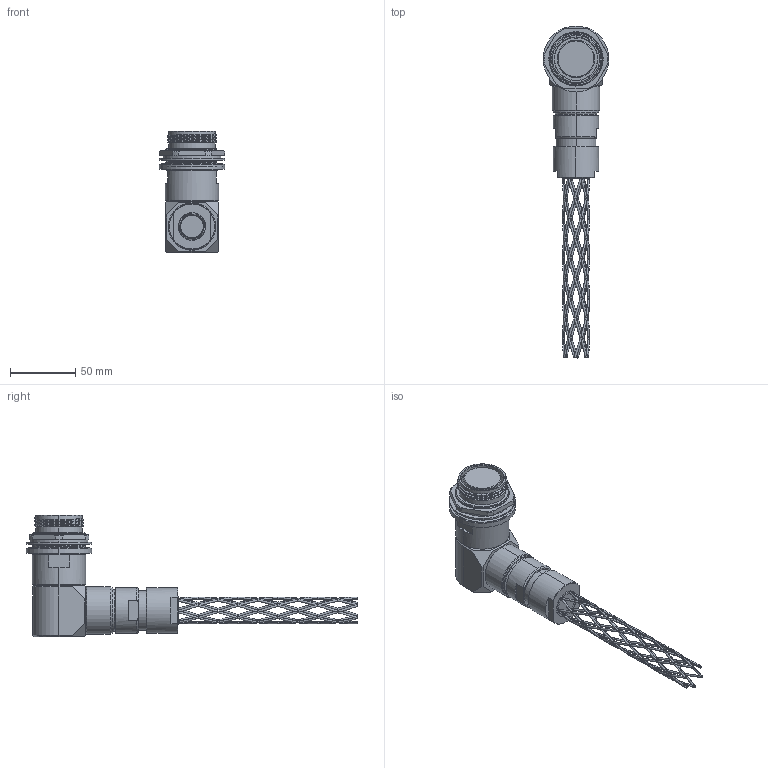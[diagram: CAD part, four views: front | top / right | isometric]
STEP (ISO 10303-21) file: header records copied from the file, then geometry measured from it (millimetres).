
FILE_DESCRIPTION (( 'STEP AP214' ), '1' );
FILE_NAME ('QLINK90-RJTX-23XX-GXXX.STEP', '2025-10-23T14:43:46', ( '' ), ( '' ), 'SwSTEP 2.0', 'SolidWorks 2024', '' );
FILE_SCHEMA (( 'AUTOMOTIVE_DESIGN' ));
Length unit declared in the file: millimetre
Products named in the file (1): QLINK90-RJTX-23XX-GXXX
Bounding box: 50.55 x 254.75 x 93.22 mm (x, y, z)
Volume: 193395.3 mm3; surface area: 45326.2 mm2
Topology: 2 solids, 4 shells, 514 faces, 1423 edges, 831 vertices
Faces by surface type: bspline 258, cylinder 95, plane 87, cone 51, torus 23
Entity records: 129370 total; most frequent: CARTESIAN_POINT 119253, ORIENTED_EDGE 2846, EDGE_CURVE 1423, DIRECTION 1397, VERTEX_POINT 831, AXIS2_PLACEMENT_3D 582, EDGE_LOOP 546, ADVANCED_FACE 514
